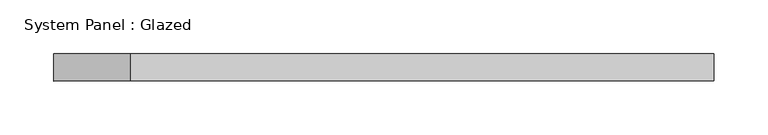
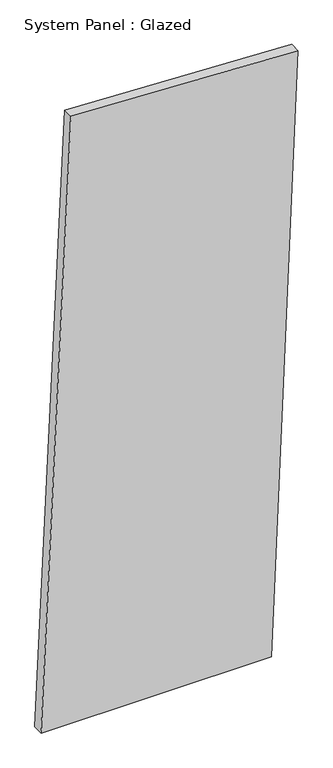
"""IFC4 building model written with IfcOpenShell, lengths in millimetres: plate geometry, System Panel : Glazed."""

from ifc_helpers import new_model, si_unit, frame, origin, place, context, project, spatial, polyline, outline, extrude, source, transform, mapped, element, save


def system_panel_glazed_40e690b2(model_context):
    return source(origin(), model_context, "Body", "SweptSolid", [
        extrude(outline(polyline([(0.0, -307.5913404), (0.0, 244.3089037), (1509.6232363, 307.5913404), (1533.6716112, -236.3228398), (0.0, -307.5913404)])), frame((0.0, -44.45, 0.0), z_axis=(0.0, 1.0, 0.0), x_axis=(0.0, 0.0, 1.0)), (0.0, 0.0, 1.0), 25.4),
    ])


if __name__ == "__main__":
    model = new_model("IFC4")
    model_context = context("Model", 3, world=origin())
    ifc_project = project(units=[si_unit("LENGTHUNIT", "METRE", prefix="MILLI")], contexts=[model_context])
    site = spatial("IfcSite", under=ifc_project)
    building = spatial("IfcBuilding", under=site)
    placement = place(None, origin())
    system_panel_glazed_shape = system_panel_glazed_40e690b2(model_context)
    element("IfcPlate", 1, ObjectType="System Panel : Glazed", at=placement, inside=building, context=model_context, shape_type="MappedRepresentation", body=[
        mapped(system_panel_glazed_shape, transform((0.0, 0.0, 0.0), x_axis=(1.0, 0.0, 0.0), y_axis=(0.0, 1.0, 0.0), z_axis=(0.0, 0.0, 1.0))),
    ])
    save(model, "model.ifc")
